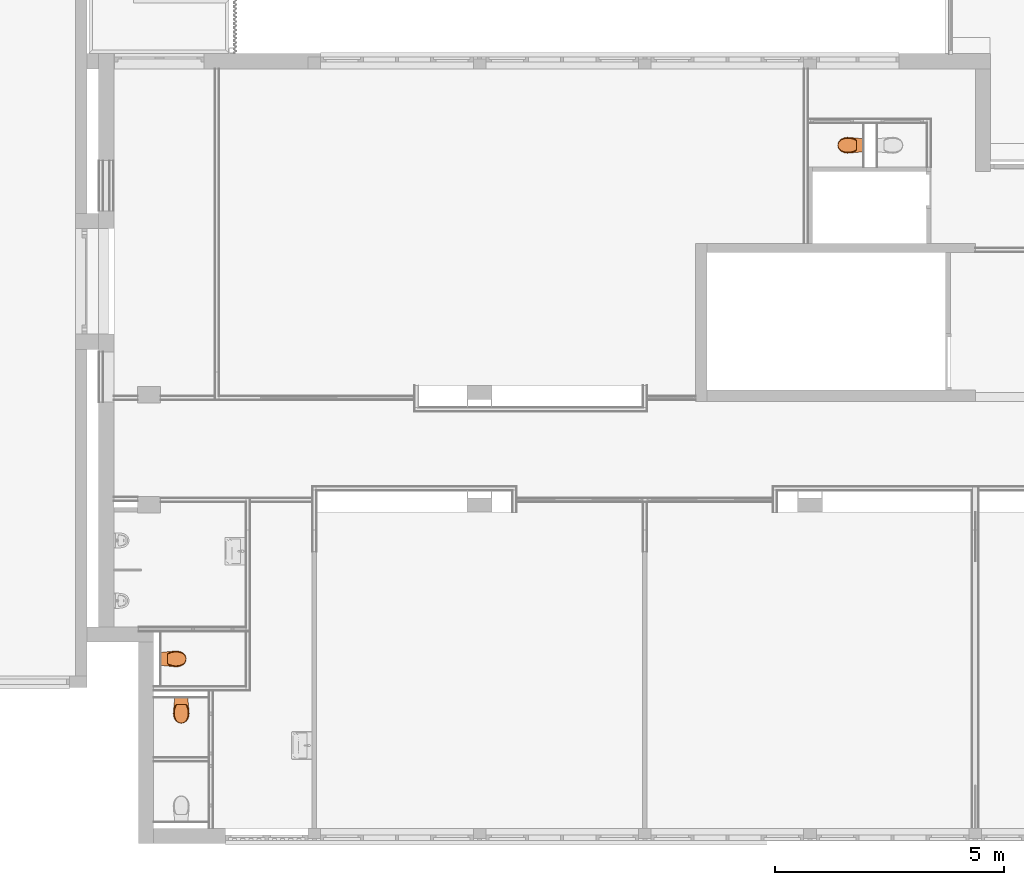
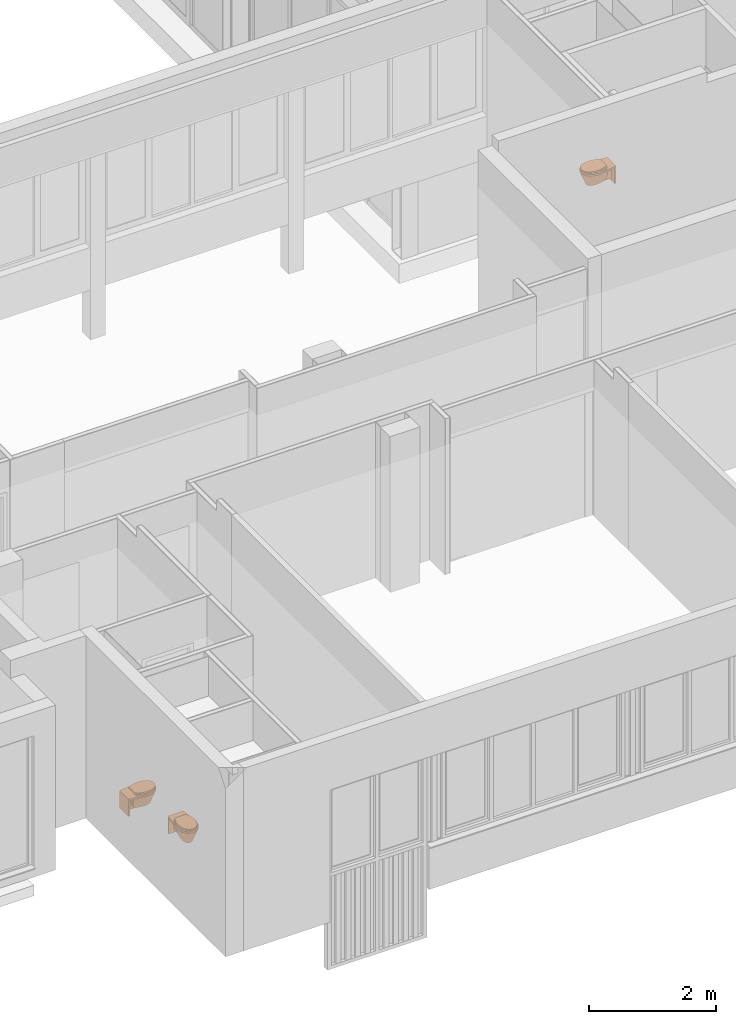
# One storey, part 89 of 99: 3 proxies.
"""IFC2X3 building model written with IfcOpenShell, lengths in millimetres."""

from ifc_helpers import new_model, entity, si_unit, converted_unit, derived_unit, money_unit, direction, frame, origin_with_axes, place, context, subcontext, project, spatial, open_shell, faceted_brep, surface_model, source, transform, mapped, type_object, type_shapes, element, save


model = new_model("IFC2X3")

# Units and contexts
model_context = context("Model", 3, precision=0.01, world=origin_with_axes(), true_north=direction((0.0, 1.0)))
body_context = subcontext(model_context, "Body", "Model", "MODEL_VIEW")
ifc_project = project(units=[si_unit("LENGTHUNIT", "METRE", prefix="MILLI"), si_unit("AREAUNIT", "SQUARE_METRE"), si_unit("VOLUMEUNIT", "CUBIC_METRE"), converted_unit("PLANEANGLEUNIT", "DEGREE", entity("IfcPlaneAngleMeasure", 0.0174532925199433), si_unit("PLANEANGLEUNIT", "RADIAN"), dimensions=[0, 0, 0, 0, 0, 0, 0]), money_unit("EUR"), converted_unit("TIMEUNIT", "Year", entity("IfcTimeMeasure", 31557600.0), si_unit("TIMEUNIT", "SECOND"), dimensions=[0, 0, 1, 0, 0, 0, 0]), si_unit("MASSUNIT", "GRAM", prefix="KILO"), si_unit("THERMODYNAMICTEMPERATUREUNIT", "DEGREE_CELSIUS"), si_unit("LUMINOUSINTENSITYUNIT", "LUMEN"), si_unit("ENERGYUNIT", "JOULE", prefix="MEGA"), derived_unit("THERMALCONDUCTANCEUNIT", [(si_unit("POWERUNIT", "WATT"), 1), (si_unit("LENGTHUNIT", "METRE"), -1), (si_unit("THERMODYNAMICTEMPERATUREUNIT", "KELVIN"), -1)]), derived_unit("SPECIFICHEATCAPACITYUNIT", [(si_unit("ENERGYUNIT", "JOULE"), 1), (si_unit("MASSUNIT", "GRAM", prefix="KILO"), -1), (si_unit("THERMODYNAMICTEMPERATUREUNIT", "KELVIN"), -1)]), derived_unit("MASSDENSITYUNIT", [(si_unit("MASSUNIT", "GRAM", prefix="KILO"), 1), (si_unit("VOLUMEUNIT", "CUBIC_METRE"), -1)])], contexts=[model_context])

# Site, building, storey
site_placement = place(None, origin_with_axes())
site = spatial("IfcSite", under=ifc_project, at=site_placement, Name="Site", CompositionType="ELEMENT")
building_placement = place(site_placement, origin_with_axes())
building = spatial("IfcBuilding", under=site, at=building_placement, Name="Naam gebouw", CompositionType="ELEMENT")
storey_placement = place(building_placement, frame((0.0, 0.0, 7650.0), z_axis=(0.0, 0.0, 1.0), x_axis=(1.0, 0.0, 0.0)))
storey = spatial("IfcBuildingStorey", under=building, at=storey_placement, Name="2e verdieping N", CompositionType="ELEMENT", Elevation=7650.0)

# Proxies
building_element_proxy_type = type_object("IfcBuildingElementProxyType", Name="Toilet 27", PredefinedType="NOTDEFINED")
shared_shape = source(origin_with_axes(), body_context, "Body", "SurfaceModel", [
    faceted_brep([(-141.0283315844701, -29.31865370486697, 69.99999999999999), (-141.0283315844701, 0.4949050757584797, 69.99999999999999), (141.0283315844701, 0.4949050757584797, 69.99999999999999), (141.0283315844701, -29.31865370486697, 69.99999999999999), (-141.0283315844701, -29.31865370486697, 370.0), (-141.0283315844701, 0.4949050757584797, 370.0), (141.0283315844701, 0.4949050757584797, 370.0), (141.0283315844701, -29.31865370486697, 370.0)], [[[0, 1, 2, 3]], [[0, 4, 5, 1]], [[1, 5, 6, 2]], [[2, 6, 7, 3]], [[3, 7, 4, 0]], [[7, 6, 5, 4]]]),
    faceted_brep([(0.0, -70.89167385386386, 370.0), (29.22322490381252, -74.34010881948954, 370.0), (48.96817068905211, -81.5929972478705, 370.0), (48.96817068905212, -29.31865370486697, 370.0), (-48.96817068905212, -29.31865370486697, 370.0), (-48.96817068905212, -81.5929972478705, 370.0), (-29.22322490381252, -74.34010881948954, 370.0), (0.0, -102.6888280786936, 120.0), (13.70129415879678, -104.9506834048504, 120.0), (48.96817068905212, -88.2509938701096, 324.1614695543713), (48.96817068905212, -91.42153264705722, 305.9289314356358), (48.96817068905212, -107.0876370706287, 223.4625696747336), (48.96817068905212, -115.6023982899, 192.7960154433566), (48.96817068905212, -121.830119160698, 170.4964192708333), (48.96817068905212, -132.9294031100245, 150.8349994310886), (48.96817068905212, -136.958898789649, 141.3134093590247), (48.96817068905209, -162.865413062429, 120.0), (48.96817068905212, -29.31865370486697, 120.0), (-48.96817068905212, -29.31865370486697, 120.0), (-48.96817068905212, -132.9294031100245, 150.8349994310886), (-48.96817068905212, -128.1614437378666, 166.4745945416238), (-48.96817068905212, -115.6023982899, 192.7960154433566), (-48.96817068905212, -98.32654517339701, 277.0091093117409), (-48.96817068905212, -91.42153264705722, 305.9289314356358), (-48.96817068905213, -162.8654130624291, 120.0), (-25.9903462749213, -111.5027098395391, 120.0), (-13.70129415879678, -104.9506834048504, 120.0), (25.9903462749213, -111.5027098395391, 120.0), (35.59888072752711, -121.6691333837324, 120.0), (41.53676110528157, -134.4015105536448, 120.0), (-35.59888072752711, -121.6691333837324, 120.0), (-41.53676110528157, -134.4015105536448, 120.0)], [[[0, 1, 2, 3, 4, 5, 6]], [[0, 7, 1]], [[1, 8, 9, 2]], [[9, 10, 11, 12, 13, 14, 15, 16, 17, 3, 2]], [[4, 3, 17, 18]], [[19, 20, 21, 22, 23, 5, 4, 18, 24]], [[23, 25, 6, 5]], [[6, 26, 0]], [[7, 0, 26]], [[8, 1, 7]], [[27, 10, 9, 8]], [[10, 27, 11]], [[28, 12, 11, 27]], [[12, 28, 13]], [[29, 14, 13, 28]], [[14, 29, 15]], [[16, 15, 29]], [[29, 28, 27, 8, 7, 26, 25, 30, 31, 24, 18, 17, 16]], [[19, 31, 20]], [[20, 31, 30, 21]], [[21, 30, 22]], [[22, 30, 25, 23]], [[24, 31, 19]], [[26, 6, 25]]]),
    surface_model("IfcShellBasedSurfaceModel", [(-17.69122070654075, -459.020482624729, 120.0), (-85.18209164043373, -535.3680377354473, 370.0), (-34.02798181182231, -451.6883347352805, 120.0), (-44.28681357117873, -553.722258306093, 370.0), (-119.554809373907, -506.3435444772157, 370.0), (-47.75865687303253, -440.0938417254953, 120.0), (-57.83238894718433, -425.1254476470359, 120.0), (-68.23029031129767, -399.4182096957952, 120.0), (-74.94382651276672, -372.4786779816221, 120.0), (-77.83882476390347, -344.845484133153, 120.0), (-76.85750262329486, -317.0761416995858, 120.0), (-70.97348723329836, -270.8651255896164, 120.0), (-63.11507520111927, -224.9582077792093, 120.0), (-53.29597761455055, -179.4418475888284, 120.0), (-41.53676110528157, -134.4015105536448, 120.0), (-35.59888072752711, -121.6691333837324, 120.0), (-25.9903462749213, -111.5027098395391, 120.0), (-13.70129415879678, -104.9506834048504, 120.0), (0.0, -102.6888280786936, 120.0), (13.70129415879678, -104.9506834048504, 120.0), (25.9903462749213, -111.5027098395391, 120.0), (35.59888072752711, -121.6691333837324, 120.0), (41.53676110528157, -134.4015105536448, 120.0), (53.29597761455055, -179.4418475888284, 120.0), (63.11507520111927, -224.9582077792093, 120.0), (70.97348723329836, -270.8651255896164, 120.0), (76.85750262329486, -317.0761416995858, 120.0), (77.83882476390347, -344.8464779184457, 120.0), (74.94382651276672, -372.4786779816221, 120.0), (68.23029031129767, -399.4182096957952, 120.0), (57.83238894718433, -425.1254476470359, 120.0), (47.75865687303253, -440.0938417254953, 120.0), (34.02798181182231, -451.6883347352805, 120.0), (17.69122070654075, -459.020482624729, 120.0), (0.0, -461.5278029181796, 120.0), (-144.7734172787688, -468.8718762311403, 370.0), (-160.3903462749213, -430.2603362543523, 370.0), (-170.4738719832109, -389.7973742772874, 370.0), (-174.8222455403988, -348.2949128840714, 370.0), (-173.3473242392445, -306.5847503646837, 370.0), (-164.8111927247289, -257.2969749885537, 370.0), (-149.8396642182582, -209.614162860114, 370.0), (-128.7050017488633, -164.3989196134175, 370.0), (-101.7881776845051, -122.4661491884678, 370.0), (-81.51241692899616, -100.8344247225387, 370.0), (-56.88632388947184, -84.50156343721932, 370.0), (-29.22322490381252, -74.34010881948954, 370.0), (0.0, -70.89167385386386, 370.0), (29.22322490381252, -74.34010881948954, 370.0), (56.88632388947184, -84.50156343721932, 370.0), (81.51241692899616, -100.8344247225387, 370.0), (101.7881776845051, -122.4661491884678, 370.0), (128.7050017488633, -164.3989196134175, 370.0), (149.8396642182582, -209.614162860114, 370.0), (164.8111927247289, -257.295981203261, 370.0), (173.3473242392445, -306.5847503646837, 370.0), (174.8222455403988, -348.2949128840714, 370.0), (170.4738719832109, -389.7973742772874, 370.0), (160.3893669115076, -430.2603362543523, 370.0), (144.7734172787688, -468.8718762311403, 370.0), (119.554809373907, -506.3435444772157, 370.0), (85.18209164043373, -535.3680377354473, 370.0), (44.28681357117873, -553.722258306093, 370.0), (0.0, -560.0, 370.0)], [open_shell([[[0, 1, 2]], [[0, 3, 1]], [[2, 1, 4]], [[0, 2, 5, 6, 7, 8, 9, 10, 11, 12, 13, 14, 15, 16, 17, 18, 19, 20, 21, 22, 23, 24, 25, 26, 27, 28, 29, 30, 31, 32, 33, 34]], [[34, 3, 0]], [[2, 4, 5]], [[5, 35, 6]], [[6, 36, 7]], [[7, 37, 8]], [[8, 38, 9]], [[9, 39, 10]], [[10, 40, 11]], [[11, 41, 12]], [[12, 42, 13]], [[13, 43, 14]], [[14, 44, 15]], [[15, 45, 16]], [[16, 46, 17]], [[17, 47, 18]], [[18, 48, 19]], [[19, 49, 20]], [[20, 50, 21]], [[21, 51, 22]], [[22, 52, 23]], [[23, 53, 24]], [[24, 54, 25]], [[25, 55, 26]], [[26, 56, 27]], [[27, 57, 28]], [[28, 58, 29]], [[29, 59, 30]], [[30, 60, 31]], [[31, 61, 32]], [[32, 62, 33]], [[33, 63, 34]], [[34, 63, 3]], [[5, 4, 35]], [[6, 35, 36]], [[7, 36, 37]], [[8, 37, 38]], [[9, 38, 39]], [[10, 39, 40]], [[11, 40, 41]], [[12, 41, 42]], [[13, 42, 43]], [[14, 43, 44]], [[15, 44, 45]], [[16, 45, 46]], [[17, 46, 47]], [[18, 47, 48]], [[19, 48, 49]], [[20, 49, 50]], [[21, 50, 51]], [[22, 51, 52]], [[23, 52, 53]], [[24, 53, 54]], [[25, 54, 55]], [[26, 55, 56]], [[27, 56, 57]], [[28, 57, 58]], [[29, 58, 59]], [[30, 59, 60]], [[31, 60, 61]], [[32, 61, 62]], [[33, 62, 63]]])]),
    faceted_brep([(173.3473242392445, -306.5847503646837, 370.0), (173.3473242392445, -306.5847503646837, 400.0), (174.8222455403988, -348.2949128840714, 400.0), (174.8222455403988, -348.2949128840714, 370.0), (140.9734872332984, 0.0, 370.0), (140.9734872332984, 0.0, 400.0), (-140.975445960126, 0.0, 400.0), (-173.3473242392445, -306.5847503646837, 400.0), (-174.8222455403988, -348.2949128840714, 400.0), (-170.4738719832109, -389.7973742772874, 400.0), (-160.3903462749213, -430.2603362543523, 400.0), (-144.7734172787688, -468.8718762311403, 400.0), (-119.554809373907, -506.3435444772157, 400.0), (-85.18209164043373, -535.3680377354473, 400.0), (-44.28681357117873, -553.722258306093, 400.0), (0.0, -560.0, 400.0), (44.28681357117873, -553.722258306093, 400.0), (85.18209164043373, -535.3680377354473, 400.0), (119.554809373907, -506.3435444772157, 400.0), (144.7734172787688, -468.8718762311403, 400.0), (160.3893669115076, -430.2603362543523, 400.0), (170.4738719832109, -389.7973742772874, 400.0), (-144.5021336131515, -309.7211367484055, 400.0), (-129.3885974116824, -258.2838037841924, 400.0), (-97.13522210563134, -215.7418429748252, 400.0), (-52.01301154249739, -187.731010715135, 400.0), (0.0, -177.9630950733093, 400.0), (52.01301154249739, -187.731010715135, 400.0), (97.13522210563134, -215.7418429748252, 400.0), (129.3885974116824, -258.2838037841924, 400.0), (144.5021336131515, -309.7211367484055, 400.0), (145.8291710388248, -347.2633637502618, 400.0), (141.914655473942, -384.6197529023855, 400.0), (132.838894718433, -421.0399963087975, 400.0), (118.7820916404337, -455.7936617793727, 400.0), (98.09206016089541, -486.5383973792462, 400.0), (69.89031129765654, -510.3524743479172, 400.0), (36.33634137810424, -525.411302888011, 400.0), (0.0, -530.5620920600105, 400.0), (-36.33634137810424, -525.411302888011, 400.0), (-69.89031129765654, -510.3524743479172, 400.0), (-98.09206016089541, -486.5383973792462, 400.0), (-118.7820916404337, -455.7936617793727, 400.0), (-132.838894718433, -421.0399963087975, 400.0), (-141.914655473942, -384.6197529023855, 400.0), (-145.8291710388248, -347.2633637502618, 400.0), (170.4738719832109, -389.7973742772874, 370.0), (160.3893669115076, -430.2603362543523, 370.0), (144.7734172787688, -468.8718762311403, 370.0), (119.554809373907, -506.3435444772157, 370.0), (85.18209164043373, -535.3680377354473, 370.0), (44.28681357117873, -553.722258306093, 370.0), (0.0, -560.0, 370.0), (-44.28681357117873, -553.722258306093, 370.0), (-85.18209164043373, -535.3680377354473, 370.0), (-119.554809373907, -506.3435444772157, 370.0), (-144.7734172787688, -468.8718762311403, 370.0), (-160.3903462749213, -430.2603362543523, 370.0), (-170.4738719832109, -389.7973742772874, 370.0), (-174.8222455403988, -348.2949128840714, 370.0), (-173.3473242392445, -306.5847503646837, 370.0), (-140.975445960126, 0.0, 370.0), (-144.5021336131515, -309.7211367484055, 370.0), (-145.8291710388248, -347.2633637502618, 370.0), (-141.914655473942, -384.6197529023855, 370.0), (-132.838894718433, -421.0399963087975, 370.0), (-118.7820916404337, -455.7936617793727, 370.0), (-98.09206016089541, -486.5383973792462, 370.0), (-69.89031129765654, -510.3524743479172, 370.0), (-36.33634137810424, -525.411302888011, 370.0), (0.0, -530.5620920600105, 370.0), (36.33634137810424, -525.411302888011, 370.0), (69.89031129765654, -510.3524743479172, 370.0), (98.09206016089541, -486.5383973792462, 370.0), (118.7820916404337, -455.7936617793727, 370.0), (132.838894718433, -421.0399963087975, 370.0), (141.914655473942, -384.6197529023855, 370.0), (145.8291710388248, -347.2633637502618, 370.0), (144.5021336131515, -309.7211367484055, 370.0), (129.3885974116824, -258.2838037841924, 370.0), (97.13522210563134, -215.7418429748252, 370.0), (52.01301154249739, -187.731010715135, 370.0), (0.0, -177.9630950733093, 370.0), (-52.01301154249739, -187.731010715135, 370.0), (-97.13522210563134, -215.7418429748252, 370.0), (-129.3885974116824, -258.2838037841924, 370.0)], [[[0, 1, 2, 3]], [[4, 5, 1, 0]], [[1, 5, 6, 7, 8, 9, 10, 11, 12, 13, 14, 15, 16, 17, 18, 19, 20, 21, 2], [22, 23, 24, 25, 26, 27, 28, 29, 30, 31, 32, 33, 34, 35, 36, 37, 38, 39, 40, 41, 42, 43, 44, 45]], [[3, 2, 21, 46]], [[0, 3, 46, 47, 48, 49, 50, 51, 52, 53, 54, 55, 56, 57, 58, 59, 60, 61, 4], [62, 63, 64, 65, 66, 67, 68, 69, 70, 71, 72, 73, 74, 75, 76, 77, 78, 79, 80, 81, 82, 83, 84, 85]], [[61, 6, 5, 4]], [[60, 7, 6, 61]], [[59, 8, 7, 60]], [[58, 9, 8, 59]], [[57, 10, 9, 58]], [[56, 11, 10, 57]], [[55, 12, 11, 56]], [[54, 13, 12, 55]], [[53, 14, 13, 54]], [[52, 15, 14, 53]], [[51, 16, 15, 52]], [[50, 17, 16, 51]], [[49, 18, 17, 50]], [[48, 19, 18, 49]], [[47, 20, 19, 48]], [[46, 21, 20, 47]], [[85, 23, 22, 62]], [[84, 24, 23, 85]], [[83, 25, 24, 84]], [[82, 26, 25, 83]], [[81, 27, 26, 82]], [[80, 28, 27, 81]], [[79, 29, 28, 80]], [[78, 30, 29, 79]], [[77, 31, 30, 78]], [[76, 32, 31, 77]], [[75, 33, 32, 76]], [[74, 34, 33, 75]], [[73, 35, 34, 74]], [[72, 36, 35, 73]], [[71, 37, 36, 72]], [[70, 38, 37, 71]], [[69, 39, 38, 70]], [[68, 40, 39, 69]], [[67, 41, 40, 68]], [[66, 42, 41, 67]], [[65, 43, 42, 66]], [[64, 44, 43, 65]], [[63, 45, 44, 64]], [[62, 22, 45, 63]]]),
    surface_model("IfcShellBasedSurfaceModel", [(-16.80665967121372, -465.7329258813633, 220.0), (-80.92298705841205, -525.2840188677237, 370.0), (-32.3265827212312, -460.0138505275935, 220.0), (-42.0724728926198, -539.6003109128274, 370.0), (-113.5770689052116, -502.644914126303, 370.0), (-45.3707240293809, -450.970145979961, 220.0), (-54.94076949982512, -439.2947985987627, 220.0), (-64.81877579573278, -419.2431529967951, 220.0), (-71.1966351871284, -398.23031825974, 220.0), (-73.9468835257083, -376.6764270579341, 220.0), (-73.01462749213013, -355.0163399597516, 220.0), (-67.42481287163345, -318.9717473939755, 220.0), (-59.95932144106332, -283.164351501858, 220.0), (-50.63117873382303, -247.6615905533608, 220.0), (-39.4599230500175, -212.5301276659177, 220.0), (-33.81893669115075, -202.598873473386, 220.0), (-24.69082896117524, -194.6690631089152, 220.0), (-13.01622945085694, -189.558482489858, 220.0), (0.0, -187.7942353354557, 220.0), (13.01622945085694, -189.558482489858, 220.0), (24.69082896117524, -194.6690631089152, 220.0), (33.81893669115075, -202.598873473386, 220.0), (39.4599230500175, -212.5301276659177, 220.0), (50.63117873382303, -247.6615905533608, 220.0), (59.95932144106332, -283.164351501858, 220.0), (67.42481287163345, -318.9717473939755, 220.0), (73.01462749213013, -355.0163399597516, 220.0), (73.9468835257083, -376.6772022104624, 220.0), (71.1966351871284, -398.23031825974, 220.0), (64.81877579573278, -419.2431529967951, 220.0), (54.94076949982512, -439.2947985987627, 220.0), (45.3707240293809, -450.970145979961, 220.0), (32.3265827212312, -460.0138505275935, 220.0), (16.80665967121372, -465.7329258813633, 220.0), (0.0, -467.6886357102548, 220.0), (-137.5347464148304, -473.4170128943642, 370.0), (-152.3708289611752, -443.3000117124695, 370.0), (-161.9501783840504, -411.7389013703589, 370.0), (-166.0811332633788, -379.3669814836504, 370.0), (-164.6799580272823, -346.833054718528, 370.0), (-156.5706330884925, -308.3885899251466, 370.0), (-142.3476810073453, -271.1959964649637, 370.0), (-122.2697516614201, -235.9281067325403, 370.0), (-96.69876880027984, -203.2205458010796, 370.0), (-77.43679608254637, -186.3478007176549, 370.0), (-54.04200769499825, -173.6081689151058, 370.0), (-27.7620636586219, -165.6822343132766, 370.0), (0.0, -162.9924550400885, 370.0), (27.7620636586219, -165.6822343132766, 370.0), (54.04200769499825, -173.6081689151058, 370.0), (77.43679608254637, -186.3478007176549, 370.0), (96.69876880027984, -203.2205458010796, 370.0), (122.2697516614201, -235.9281067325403, 370.0), (142.3476810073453, -271.1959964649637, 370.0), (156.5706330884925, -308.3878147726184, 370.0), (164.6799580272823, -346.833054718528, 370.0), (166.0811332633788, -379.3669814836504, 370.0), (161.9501783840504, -411.7389013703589, 370.0), (152.3698985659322, -443.3000117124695, 370.0), (137.5347464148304, -473.4170128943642, 370.0), (113.5770689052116, -502.644914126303, 370.0), (80.92298705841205, -525.2840188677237, 370.0), (42.0724728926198, -539.6003109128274, 370.0), (0.0, -544.4969494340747, 370.0)], [open_shell([[[0, 1, 2]], [[0, 3, 1]], [[2, 1, 4]], [[0, 2, 5, 6, 7, 8, 9, 10, 11, 12, 13, 14, 15, 16, 17, 18, 19, 20, 21, 22, 23, 24, 25, 26, 27, 28, 29, 30, 31, 32, 33, 34]], [[34, 3, 0]], [[2, 4, 5]], [[5, 35, 6]], [[6, 36, 7]], [[7, 37, 8]], [[8, 38, 9]], [[9, 39, 10]], [[10, 40, 11]], [[11, 41, 12]], [[12, 42, 13]], [[13, 43, 14]], [[14, 44, 15]], [[15, 45, 16]], [[16, 46, 17]], [[17, 47, 18]], [[18, 48, 19]], [[19, 49, 20]], [[20, 50, 21]], [[21, 51, 22]], [[22, 52, 23]], [[23, 53, 24]], [[24, 54, 25]], [[25, 55, 26]], [[26, 56, 27]], [[27, 57, 28]], [[28, 58, 29]], [[29, 59, 30]], [[30, 60, 31]], [[31, 61, 32]], [[32, 62, 33]], [[33, 63, 34]], [[34, 63, 3]], [[5, 4, 35]], [[6, 35, 36]], [[7, 36, 37]], [[8, 37, 38]], [[9, 38, 39]], [[10, 39, 40]], [[11, 40, 41]], [[12, 41, 42]], [[13, 42, 43]], [[14, 43, 44]], [[15, 44, 45]], [[16, 45, 46]], [[17, 46, 47]], [[18, 47, 48]], [[19, 48, 49]], [[20, 49, 50]], [[21, 50, 51]], [[22, 51, 52]], [[23, 52, 53]], [[24, 53, 54]], [[25, 54, 55]], [[26, 55, 56]], [[27, 56, 57]], [[28, 57, 58]], [[29, 58, 59]], [[30, 59, 60]], [[31, 60, 61]], [[32, 61, 62]], [[33, 62, 63]]])]),
    faceted_brep([(0.0, -560.0, 400.0), (-44.28681357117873, -553.722258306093, 400.0), (-85.18209164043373, -535.3680377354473, 400.0), (-119.554809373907, -506.3435444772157, 400.0), (-144.7734172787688, -468.8718762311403, 400.0), (-160.3903462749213, -430.2603362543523, 400.0), (-170.4738719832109, -389.7973742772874, 400.0), (-174.8222455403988, -348.2949128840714, 400.0), (-173.3473242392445, -306.5847503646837, 400.0), (-166.4663168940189, -264.4263906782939, 400.0), (-154.8716334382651, -223.3443004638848, 400.0), (-138.7150752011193, -183.8810864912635, 400.0), (-110.1926579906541, -151.3163525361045, 400.0), (110.1926579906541, -151.3163525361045, 400.0), (138.7150752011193, -183.8810864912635, 400.0), (154.8716334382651, -223.3443004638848, 400.0), (166.4663168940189, -264.4263906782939, 400.0), (173.3473242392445, -306.5847503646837, 400.0), (174.8222455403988, -348.2949128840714, 400.0), (170.4738719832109, -389.7973742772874, 400.0), (160.3893669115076, -430.2603362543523, 400.0), (144.7734172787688, -468.8718762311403, 400.0), (119.554809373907, -506.3435444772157, 400.0), (85.18209164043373, -535.3680377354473, 400.0), (44.28681357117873, -553.722258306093, 400.0), (-87.07689659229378, -411.9963613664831, 400.0), (-76.4888004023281, -438.0775703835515, 400.0), (-62.06856874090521, -459.4262123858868, 400.0), (-44.26109835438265, -474.4067566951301, 400.0), (-23.02579943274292, -483.9023013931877, 400.0), (0.0, -487.1544663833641, 400.0), (23.02579943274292, -483.9023013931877, 400.0), (44.26109835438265, -474.4067566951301, 400.0), (62.06856874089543, -459.4262123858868, 400.0), (76.4888004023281, -438.0775703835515, 400.0), (87.07689659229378, -411.9963613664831, 400.0), (94.51085540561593, -382.2763031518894, 400.0), (97.71606496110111, -351.7983255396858, 400.0), (96.61425296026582, -320.7429308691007, 400.0), (90.99294096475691, -286.7942733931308, 400.0), (81.3289539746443, -253.3384220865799, 400.0), (68.75412876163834, -223.4663237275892, 400.0), (-68.75448552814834, -223.4663237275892, 400.0), (-81.32886310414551, -253.3381075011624, 400.0), (-90.99294096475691, -286.7942733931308, 400.0), (-96.61425296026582, -320.7429308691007, 400.0), (-97.71606496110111, -351.7983255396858, 400.0), (-94.51085540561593, -382.2763031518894, 400.0), (-42.15180132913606, -546.1188070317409, 420.0000000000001), (-81.07562084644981, -528.649055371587, 420.0000000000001), (-113.7912556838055, -501.0248055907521, 420.0000000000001), (-137.7925148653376, -465.3598390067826, 420.0000000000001), (-152.9902763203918, -427.7848170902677, 420.0000000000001), (-162.8034977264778, -388.4070686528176, 420.0000000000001), (-167.0353270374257, -348.0176467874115, 420.0000000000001), (-165.6005596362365, -307.4274802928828, 420.0000000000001), (-158.5902763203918, -264.9332211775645, 420.0000000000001), (-146.6880727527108, -223.5758524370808, 420.0000000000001), (-130.06142007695, -183.9307757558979, 420.0000000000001), (-108.940468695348, -151.3163525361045, 420.0000000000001), (108.940468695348, -151.3163525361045, 420.0000000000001), (130.06142007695, -183.9317695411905, 420.0000000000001), (146.6880727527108, -223.5758524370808, 420.0000000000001), (158.5902763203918, -264.9332211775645, 420.0000000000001), (165.6005596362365, -307.4274802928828, 420.0000000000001), (167.0353270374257, -348.0176467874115, 420.0000000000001), (162.8034977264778, -388.4070686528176, 420.0000000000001), (152.9902763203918, -427.7848170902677, 420.0000000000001), (137.7925148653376, -465.3598390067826, 420.0000000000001), (113.7912556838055, -501.0248055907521, 420.0000000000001), (81.07562084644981, -528.649055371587, 420.0000000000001), (42.15180132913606, -546.1188070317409, 420.0000000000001), (0.0, -552.0944379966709, 420.0000000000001), (-76.4888004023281, -438.0775703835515, 420.0), (-87.07689659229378, -411.9963613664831, 420.0), (-62.06856874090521, -459.4262123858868, 420.0), (-44.26109835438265, -474.4067566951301, 420.0), (-23.02579943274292, -483.9023013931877, 420.0), (0.0, -487.1544663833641, 420.0), (23.02579943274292, -483.9023013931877, 420.0000000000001), (44.26109835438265, -474.4067566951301, 420.0000000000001), (62.06856874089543, -459.4262123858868, 420.0000000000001), (76.4888004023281, -438.0775703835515, 420.0000000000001), (87.07689659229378, -411.9963613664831, 420.0000000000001), (94.51085540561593, -382.2763031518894, 420.0000000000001), (97.71606496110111, -351.7983255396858, 420.0000000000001), (96.61425296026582, -320.7429308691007, 420.0000000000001), (90.99294096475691, -286.7942733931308, 420.0000000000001), (81.3289539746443, -253.3384220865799, 420.0000000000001), (68.75412876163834, -223.4663237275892, 420.0000000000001), (-68.75448552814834, -223.4663237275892, 420.0), (-81.32886310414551, -253.3381075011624, 420.0), (-90.99294096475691, -286.7942733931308, 420.0), (-96.61425296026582, -320.7429308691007, 420.0), (-97.71606496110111, -351.7983255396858, 420.0), (-94.51085540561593, -382.2763031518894, 420.0)], [[[0, 1, 2, 3, 4, 5, 6, 7, 8, 9, 10, 11, 12, 13, 14, 15, 16, 17, 18, 19, 20, 21, 22, 23, 24], [25, 26, 27, 28, 29, 30, 31, 32, 33, 34, 35, 36, 37, 38, 39, 40, 41, 42, 43, 44, 45, 46, 47]], [[0, 48, 1]], [[1, 49, 2]], [[2, 50, 3]], [[3, 51, 4]], [[5, 4, 51, 52]], [[5, 53, 6]], [[7, 6, 53, 54]], [[7, 55, 8]], [[8, 56, 9]], [[9, 57, 10]], [[10, 58, 11]], [[11, 59, 12]], [[13, 12, 59, 60]], [[13, 61, 14]], [[14, 62, 15]], [[15, 63, 16]], [[16, 64, 17]], [[17, 65, 18]], [[19, 18, 65, 66]], [[19, 67, 20]], [[20, 68, 21]], [[21, 69, 22]], [[22, 70, 23]], [[23, 71, 24]], [[24, 72, 0]], [[73, 26, 25, 74]], [[75, 27, 26, 73]], [[76, 28, 27, 75]], [[77, 29, 28, 76]], [[78, 30, 29, 77]], [[79, 31, 30, 78]], [[80, 32, 31, 79]], [[81, 33, 32, 80]], [[82, 34, 33, 81]], [[83, 35, 34, 82]], [[84, 36, 35, 83]], [[85, 37, 36, 84]], [[86, 38, 37, 85]], [[87, 39, 38, 86]], [[88, 40, 39, 87]], [[89, 41, 40, 88]], [[90, 42, 41, 89]], [[91, 43, 42, 90]], [[92, 44, 43, 91]], [[93, 45, 44, 92]], [[94, 46, 45, 93]], [[95, 47, 46, 94]], [[74, 25, 47, 95]], [[0, 72, 48]], [[1, 48, 49]], [[2, 49, 50]], [[3, 50, 51]], [[66, 65, 64, 63, 62, 61, 60, 59, 58, 57, 56, 55, 54, 53, 52, 51, 50, 49, 48, 72, 71, 70, 69, 68, 67], [92, 91, 90, 89, 88, 87, 86, 85, 84, 83, 82, 81, 80, 79, 78, 77, 76, 75, 73, 74, 95, 94, 93]], [[5, 52, 53]], [[7, 54, 55]], [[8, 55, 56]], [[9, 56, 57]], [[10, 57, 58]], [[11, 58, 59]], [[13, 60, 61]], [[14, 61, 62]], [[15, 62, 63]], [[16, 63, 64]], [[17, 64, 65]], [[19, 66, 67]], [[20, 67, 68]], [[21, 68, 69]], [[22, 69, 70]], [[23, 70, 71]], [[24, 71, 72]]]),
    faceted_brep([(107.5993284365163, -494.4181209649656, 420.0000000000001), (72.96805876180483, -528.649055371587, 440.0000000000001), (76.66388247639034, -519.4674730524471, 420.0000000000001), (102.412130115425, -501.0248055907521, 440.0000000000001), (37.93662119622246, -546.1188070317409, 440.0000000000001), (39.85813221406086, -538.8154789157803, 420.0000000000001), (0.0, -545.0932206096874, 420.0000000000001), (-39.85813221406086, -538.8154789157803, 420.0000000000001), (-76.66388247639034, -519.4674730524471, 420.0000000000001), (-107.5993284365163, -494.4181209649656, 420.0000000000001), (-130.2960755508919, -463.9029497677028, 420.0000000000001), (-144.3513116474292, -430.2603362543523, 420.0000000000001), (-153.4264847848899, -389.7973742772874, 420.0000000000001), (-157.3400209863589, -348.2949128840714, 420.0000000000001), (-156.01259181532, -306.5847503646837, 420.0000000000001), (-149.819685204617, -264.4263906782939, 420.0000000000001), (-139.3844700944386, -223.3443004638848, 420.0000000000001), (-119.5550052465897, -183.8810864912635, 420.0000000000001), (-99.17339219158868, -151.3163525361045, 420.0000000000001), (99.17339219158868, -151.3163525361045, 420.0000000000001), (119.5550052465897, -183.8810864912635, 420.0000000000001), (139.3844700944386, -223.3443004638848, 420.0000000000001), (149.819685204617, -264.4263906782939, 420.0000000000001), (156.01259181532, -306.5847503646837, 420.0000000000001), (157.3400209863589, -348.2949128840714, 420.0000000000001), (153.4264847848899, -389.7973742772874, 420.0000000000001), (144.3504302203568, -430.2603362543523, 420.0000000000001), (130.2960755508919, -463.9029497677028, 420.0000000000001), (124.0132633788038, -465.3598390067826, 440.0000000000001), (137.6912486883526, -427.7848170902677, 440.0000000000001), (146.52314795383, -388.4070686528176, 440.0000000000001), (150.3317943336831, -348.0176467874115, 440.0000000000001), (149.0405036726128, -307.4274802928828, 440.0000000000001), (142.7312486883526, -264.9332211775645, 440.0000000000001), (132.0192654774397, -223.5758524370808, 440.0000000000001), (117.055278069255, -183.9317695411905, 440.0000000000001), (98.04642182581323, -151.3163525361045, 440.0000000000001), (-98.04642182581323, -151.3163525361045, 440.0000000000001), (-117.055278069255, -183.9307757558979, 440.0000000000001), (-132.0192654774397, -223.5758524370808, 440.0000000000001), (-142.7312486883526, -264.9332211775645, 440.0000000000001), (-149.0405036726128, -307.4274802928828, 440.0000000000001), (-150.3317943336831, -348.0176467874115, 440.0000000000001), (-146.52314795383, -388.4070686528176, 440.0000000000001), (-137.6912486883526, -427.7848170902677, 440.0000000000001), (-124.0132633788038, -465.3598390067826, 440.0000000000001), (-102.412130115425, -501.0248055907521, 440.0000000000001), (-72.96805876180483, -528.649055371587, 440.0000000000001), (-37.93662119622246, -546.1188070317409, 440.0000000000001), (0.0, -552.0944379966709, 440.0000000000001)], [[[0, 1, 2]], [[0, 3, 1]], [[2, 1, 4]], [[0, 2, 5, 6, 7, 8, 9, 10, 11, 12, 13, 14, 15, 16, 17, 18, 19, 20, 21, 22, 23, 24, 25, 26, 27]], [[27, 3, 0]], [[3, 28, 29, 30, 31, 32, 33, 34, 35, 36, 37, 38, 39, 40, 41, 42, 43, 44, 45, 46, 47, 48, 49, 4, 1]], [[2, 4, 5]], [[5, 49, 6]], [[6, 48, 7]], [[7, 47, 8]], [[8, 46, 9]], [[9, 45, 10]], [[10, 44, 11]], [[11, 43, 12]], [[12, 43, 42, 13]], [[13, 41, 14]], [[14, 40, 15]], [[15, 39, 16]], [[16, 38, 17]], [[17, 37, 18]], [[18, 37, 36, 19]], [[19, 35, 20]], [[20, 34, 21]], [[21, 33, 22]], [[22, 32, 23]], [[23, 31, 24]], [[24, 31, 30, 25]], [[25, 29, 26]], [[26, 28, 27]], [[27, 28, 3]], [[26, 29, 28]], [[25, 30, 29]], [[23, 32, 31]], [[22, 33, 32]], [[21, 34, 33]], [[20, 35, 34]], [[19, 36, 35]], [[17, 38, 37]], [[16, 39, 38]], [[15, 40, 39]], [[14, 41, 40]], [[13, 42, 41]], [[11, 44, 43]], [[10, 45, 44]], [[9, 46, 45]], [[8, 47, 46]], [[7, 48, 47]], [[6, 49, 48]], [[5, 4, 49]]]),
])
type_shapes(building_element_proxy_type, [shared_shape])
for number, where, z_axis, x_axis, name in (
    (1, (15562.5, 18331.42315075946, 0.0), (0.0, 0.0, 1.0), (0.0, -1.0, 0.0), "_Sanitair-x"),
    (2, (250.0000479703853, 7140.121696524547, 0.0), (0.0, 0.0, 1.0), (0.0, 1.0, 0.0), "_Sanitair-x"),
    (3, (700.0000459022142, 6295.658971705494, 0.0), (0.0, 0.0, 1.0), (1.0, 0.0, 0.0), "_Sanitair-x"),
):
    element("IfcBuildingElementProxy", number, at=place(storey_placement, frame(where, z_axis=z_axis, x_axis=x_axis)), inside=storey, type_object=building_element_proxy_type, Name=name, context=body_context, shape_type="MappedRepresentation", body=[
        mapped(shared_shape, transform((0.0, 0.0, 0.0))),
    ])

save(model, "model.ifc")
